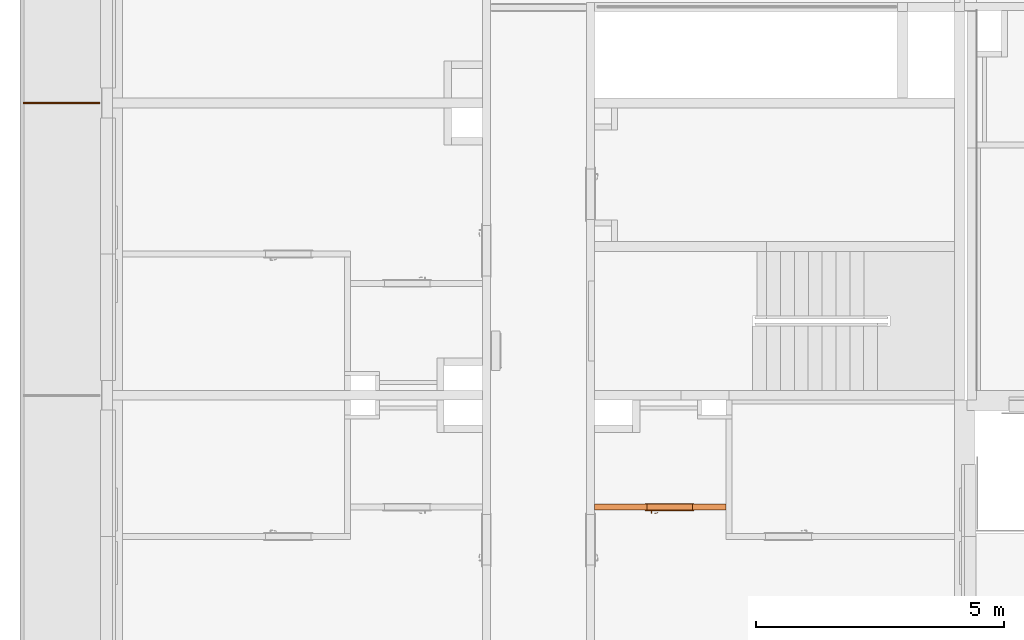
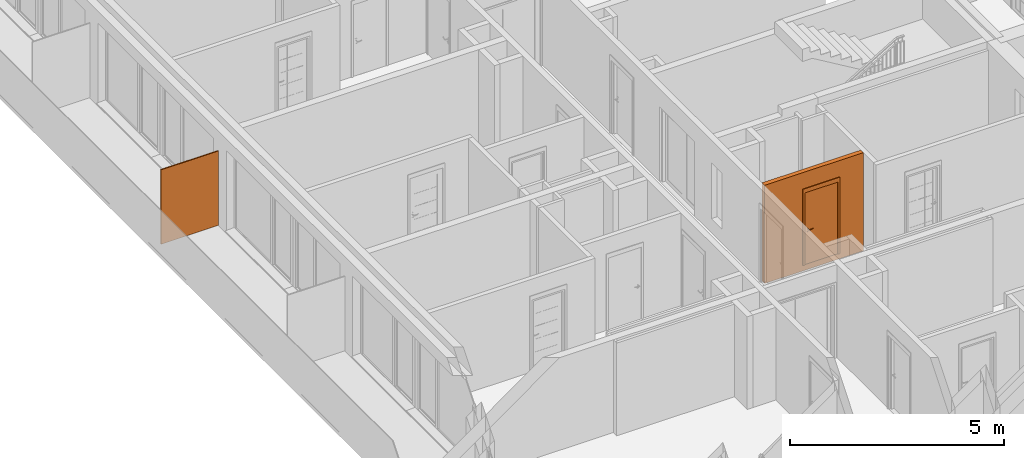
# One storey, part 14 of 66: 3 proxies, 1 opening.
"""IFC2X3 building model written with IfcOpenShell, lengths in millimetres."""

from ifc_helpers import new_model, entity, si_unit, converted_unit, derived_unit, money_unit, direction, frame, origin_with_axes, origin_2d_with_axis, place, context, subcontext, project, spatial, polyline, rectangle, outline, extrude, open_shell, faceted_brep, surface_model, source, transform, mapped, material, type_object, element, fill, save


model = new_model("IFC2X3")

# Units and contexts
model_context = context("Model", 3, precision=0.01, world=origin_with_axes(), true_north=direction((0.34421633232, 0.938890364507)))
body_context = subcontext(model_context, "Body", "Model", "MODEL_VIEW")
ifc_project = project(units=[si_unit("LENGTHUNIT", "METRE", prefix="MILLI"), si_unit("AREAUNIT", "SQUARE_METRE"), si_unit("VOLUMEUNIT", "CUBIC_METRE"), converted_unit("PLANEANGLEUNIT", "DEGREE", entity("IfcPlaneAngleMeasure", 0.0174532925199), si_unit("PLANEANGLEUNIT", "RADIAN"), dimensions=[0, 0, 0, 0, 0, 0, 0]), si_unit("SOLIDANGLEUNIT", "STERADIAN"), money_unit("USD"), converted_unit("TIMEUNIT", "Year", entity("IfcTimeMeasure", 31556926.0), si_unit("TIMEUNIT", "SECOND"), dimensions=[0, 0, 1, 0, 0, 0, 0]), si_unit("MASSUNIT", "GRAM", prefix="KILO"), si_unit("THERMODYNAMICTEMPERATUREUNIT", "DEGREE_CELSIUS"), si_unit("LUMINOUSINTENSITYUNIT", "LUMEN"), si_unit("ENERGYUNIT", "JOULE", prefix="MEGA"), derived_unit("THERMALCONDUCTANCEUNIT", [(si_unit("POWERUNIT", "WATT"), 1), (si_unit("LENGTHUNIT", "METRE"), -1), (si_unit("THERMODYNAMICTEMPERATUREUNIT", "KELVIN"), -1)]), derived_unit("SPECIFICHEATCAPACITYUNIT", [(si_unit("ENERGYUNIT", "JOULE"), 1), (si_unit("MASSUNIT", "GRAM", prefix="KILO"), -1), (si_unit("THERMODYNAMICTEMPERATUREUNIT", "KELVIN"), -1)]), derived_unit("MASSDENSITYUNIT", [(si_unit("MASSUNIT", "GRAM", prefix="KILO"), 1), (si_unit("VOLUMEUNIT", "CUBIC_METRE"), -1)])], contexts=[model_context])

# Site, building, storey
site_placement = place(None, origin_with_axes())
site = spatial("IfcSite", under=ifc_project, at=site_placement, Name="USTRONIE MORSKIE", CompositionType="ELEMENT")
building_placement = place(site_placement, origin_with_axes())
building = spatial("IfcBuilding", under=site, at=building_placement, Name="Budynek", CompositionType="ELEMENT")
storey_placement = place(building_placement, frame((0.0, 0.0, 10000.0), z_axis=(0.0, 0.0, 1.0), x_axis=(1.0, 0.0, 0.0)))
storey = spatial("IfcBuildingStorey", under=building, at=storey_placement, Name="PIĘTRO 3", CompositionType="ELEMENT", Elevation=10000.0)

# Proxies, opening
ifc_material_1 = material(Name="Bloczki silikatowe")
building_element_proxy_type_1 = type_object("IfcBuildingElementProxyType", Name="Bloczki silikatowe 120", PredefinedType="NOTDEFINED")
proxy_1_placement = place(storey_placement, frame((362417.920919, 724641.179437, -160.0), z_axis=(0.0, 0.0, 1.0), x_axis=(-1.0, 0.0, 0.0)))
proxy_1 = element("IfcBuildingElementProxy", 1, at=proxy_1_placement, inside=storey, type_object=building_element_proxy_type_1, material=ifc_material_1, Name="SW-04", context=body_context, shape_type="Brep", body=[
    faceted_brep([(2720.0, 59.9999999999, 0.0), (2720.0, -59.9999999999, 0.0), (60.0, -59.9999999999, 0.0), (60.0, 59.9999999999, 0.0), (2720.0, 59.9999999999, 2800.0), (2720.0, -59.9999999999, 2800.0), (60.0, -59.9999999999, 2800.0), (60.0, 59.9999999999, 2800.0)], [[[0, 1, 2, 3]], [[1, 0, 4, 5]], [[1, 5, 6, 2]], [[7, 3, 2, 6]], [[4, 0, 3, 7]], [[5, 4, 7, 6]]]),
])
opening_placement = place(proxy_1_placement, frame((1200.0, 1.13686837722e-10, 160.0), z_axis=(0.0, 0.0, 1.0), x_axis=(1.0, 0.0, 0.0)))
opening = element("IfcOpeningElement", 2, at=opening_placement, cuts=proxy_1, Name="Dw.4", context=body_context, shape_type="SweptSolid", body=[
    extrude(rectangle(XDim=920.0, YDim=2070.0, at=origin_2d_with_axis()), frame((0.0, -120.0, 1035.0), z_axis=(0.0, -1.0, 0.0), x_axis=(-1.0, 0.0, 0.0)), (0.0, 0.0, -1.0), 360.0),
    extrude(rectangle(XDim=994.0, YDim=2177.0, at=origin_2d_with_axis()), frame((0.0, -59.9999999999, 1088.5), z_axis=(0.0, -1.0, 0.0), x_axis=(-1.0, 0.0, 0.0)), (0.0, 0.0, 1.0), 120.0),
    extrude(rectangle(XDim=994.0, YDim=2177.0, at=origin_2d_with_axis()), frame((0.0, 60.0000000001, 1088.5), z_axis=(0.0, 1.0, 0.0), x_axis=(-1.0, 0.0, 0.0)), (0.0, 0.0, 1.0), 120.0),
])
building_element_proxy_type_2 = type_object("IfcBuildingElementProxyType", Name="Drzwi 23", PredefinedType="NOTDEFINED")
shared_shape = source(origin_with_axes(), body_context, "Body", "SurfaceModel", [
    faceted_brep([(460.0, -115.0, 0.0), (460.0, -120.0, 0.0), (435.0, -120.0, 0.0), (435.0, -115.0, 0.0), (460.0, -115.0, 2070.0), (460.0, -120.0, 2070.0), (435.0, -120.0, 2045.0), (435.0, -115.0, 2045.0)], [[[0, 1, 2, 3]], [[4, 5, 1, 0]], [[1, 5, 6, 2]], [[3, 2, 6, 7]], [[0, 3, 7, 4]], [[7, 6, 5, 4]]]),
    faceted_brep([(-460.0, -115.0, 2070.0), (-460.0, -120.0, 2070.0), (-435.0, -120.0, 2045.0), (-435.0, -115.0, 2045.0), (-460.0, -115.0, 0.0), (-460.0, -120.0, 0.0), (-435.0, -120.0, 0.0), (-435.0, -115.0, 0.0)], [[[0, 1, 2, 3]], [[4, 5, 1, 0]], [[1, 5, 6, 2]], [[3, 2, 6, 7]], [[0, 3, 7, 4]], [[7, 6, 5, 4]]]),
    faceted_brep([(435.0, -115.0, 2045.0), (435.0, -120.0, 2045.0), (-435.0, -120.0, 2045.0), (-435.0, -115.0, 2045.0), (460.0, -115.0, 2070.0), (460.0, -120.0, 2070.0), (-460.0, -120.0, 2070.0), (-460.0, -115.0, 2070.0)], [[[0, 1, 2, 3]], [[4, 5, 1, 0]], [[1, 5, 6, 2]], [[3, 2, 6, 7]], [[0, 3, 7, 4]], [[7, 6, 5, 4]]]),
    faceted_brep([(497.0, -139.0, 0.0), (447.0, -139.0, 0.0), (447.0, -120.0, 0.0), (497.0, -120.0, 0.0), (497.0, -139.0, 2177.0), (447.0, -139.0, 2057.0), (447.0, -120.0, 2057.0), (497.0, -120.0, 2177.0)], [[[0, 1, 2, 3]], [[0, 4, 5, 1]], [[1, 5, 6, 2]], [[3, 2, 6, 7]], [[4, 0, 3, 7]], [[5, 4, 7, 6]]]),
    faceted_brep([(-497.0, -139.0, 2177.0), (-447.0, -139.0, 2057.0), (-447.0, -120.0, 2057.0), (-497.0, -120.0, 2177.0), (-497.0, -139.0, 0.0), (-447.0, -139.0, 0.0), (-447.0, -120.0, 0.0), (-497.0, -120.0, 0.0)], [[[0, 1, 2, 3]], [[0, 4, 5, 1]], [[1, 5, 6, 2]], [[3, 2, 6, 7]], [[4, 0, 3, 7]], [[5, 4, 7, 6]]]),
    faceted_brep([(497.0, -139.0, 2177.0), (447.0, -139.0, 2057.0), (447.0, -120.0, 2057.0), (497.0, -120.0, 2177.0), (-497.0, -139.0, 2177.0), (-447.0, -139.0, 2057.0), (-447.0, -120.0, 2057.0), (-497.0, -120.0, 2177.0)], [[[0, 1, 2, 3]], [[0, 4, 5, 1]], [[1, 5, 6, 2]], [[3, 2, 6, 7]], [[4, 0, 3, 7]], [[5, 4, 7, 6]]]),
    faceted_brep([(497.0, 19.0, 0.0), (497.0, 0.0, 0.0), (447.0, 0.0, 0.0), (447.0, 19.0, 0.0), (497.0, 19.0, 2177.0), (497.0, 0.0, 2177.0), (447.0, 0.0, 2057.0), (447.0, 19.0, 2057.0)], [[[0, 1, 2, 3]], [[4, 5, 1, 0]], [[1, 5, 6, 2]], [[3, 2, 6, 7]], [[0, 3, 7, 4]], [[7, 6, 5, 4]]]),
    faceted_brep([(-497.0, 19.0, 2177.0), (-497.0, 0.0, 2177.0), (-447.0, 0.0, 2057.0), (-447.0, 19.0, 2057.0), (-497.0, 19.0, 0.0), (-497.0, 0.0, 0.0), (-447.0, 0.0, 0.0), (-447.0, 19.0, 0.0)], [[[0, 1, 2, 3]], [[4, 5, 1, 0]], [[1, 5, 6, 2]], [[3, 2, 6, 7]], [[0, 3, 7, 4]], [[7, 6, 5, 4]]]),
    faceted_brep([(497.0, 19.0, 2177.0), (497.0, 0.0, 2177.0), (447.0, 0.0, 2057.0), (447.0, 19.0, 2057.0), (-497.0, 19.0, 2177.0), (-497.0, 0.0, 2177.0), (-447.0, 0.0, 2057.0), (-447.0, 19.0, 2057.0)], [[[0, 1, 2, 3]], [[4, 5, 1, 0]], [[1, 5, 6, 2]], [[3, 2, 6, 7]], [[0, 3, 7, 4]], [[7, 6, 5, 4]]]),
    faceted_brep([(400.0, -40.0, 0.0), (400.0, -115.0, 0.0), (400.0, -115.0, 2000.0), (400.0, -40.0, 2000.0), (412.0, -40.0, 0.0), (412.0, 0.0, 0.0), (460.0, 0.0, 0.0), (460.0, -115.0, 0.0), (460.0, -115.0, 2000.0), (412.0, -40.0, 2000.0), (460.0, 0.0, 2000.0), (412.0, 0.0, 2000.0)], [[[0, 1, 2, 3]], [[4, 5, 6, 7, 1, 0]], [[1, 7, 8, 2]], [[9, 3, 2, 8, 10, 11]], [[9, 4, 0, 3]], [[11, 5, 4, 9]], [[11, 10, 6, 5]], [[6, 10, 8, 7]]]),
    faceted_brep([(-412.0, -40.0, 2000.0), (-412.0, 0.0, 2000.0), (-460.0, 0.0, 2000.0), (-460.0, -115.0, 2000.0), (-400.0, -115.0, 2000.0), (-400.0, -40.0, 2000.0), (-412.0, -40.0, 0.0), (-412.0, 0.0, 0.0), (-460.0, 0.0, 0.0), (-460.0, -115.0, 0.0), (-400.0, -115.0, 0.0), (-400.0, -40.0, 0.0)], [[[0, 1, 2, 3, 4, 5]], [[0, 6, 7, 1]], [[7, 8, 2, 1]], [[2, 8, 9, 3]], [[3, 9, 10, 4]], [[5, 4, 10, 11]], [[5, 11, 6, 0]], [[6, 11, 10, 9, 8, 7]]]),
    faceted_brep([(412.0, 0.0, 2012.0), (-412.0, 0.0, 2012.0), (-412.0, 0.0, 2000.0), (-460.0, 0.0, 2000.0), (-460.0, 0.0, 2070.0), (460.0, 0.0, 2070.0), (460.0, 0.0, 2000.0), (412.0, 0.0, 2000.0), (412.0, -40.0, 2012.0), (-412.0, -40.0, 2012.0), (-412.0, -40.0, 2000.0), (-400.0, -40.0, 2000.0), (-400.0, -115.0, 2000.0), (-460.0, -115.0, 2000.0), (-460.0, -115.0, 2070.0), (460.0, -115.0, 2070.0), (460.0, -115.0, 2000.0), (412.0, -40.0, 2000.0), (400.0, -115.0, 2000.0), (400.0, -40.0, 2000.0)], [[[0, 1, 2, 3, 4, 5, 6, 7]], [[0, 8, 9, 1]], [[1, 9, 10, 2]], [[10, 11, 12, 13, 3, 2]], [[4, 3, 13, 14]], [[5, 4, 14, 15]], [[6, 5, 15, 16]], [[17, 7, 6, 16, 18, 19]], [[7, 17, 8, 0]], [[10, 9, 8, 17, 19, 11]], [[19, 18, 12, 11]], [[12, 18, 16, 15, 14, 13]]]),
    faceted_brep([(390.5, -40.0, 1060.0), (333.5, -40.0, 1060.0), (333.5, -43.0, 1060.0), (390.5, -43.0, 1060.0), (390.5, -40.0, 870.0), (333.5, -40.0, 870.0), (333.5, -43.0, 870.0), (390.5, -43.0, 870.0)], [[[0, 1, 2, 3]], [[0, 4, 5, 1]], [[1, 5, 6, 2]], [[3, 2, 6, 7]], [[4, 0, 3, 7]], [[5, 4, 7, 6]]]),
    faceted_brep([(362.0, -104.0, 990.0), (367.0, -104.0, 991.339745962), (367.0, -111.0, 991.339745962), (362.0, -111.0, 990.0), (337.0, -104.0, 990.0), (337.0, -104.0, 1010.0), (362.0, -104.0, 1010.0), (367.0, -104.0, 1008.66025404), (370.660254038, -104.0, 1005.0), (372.0, -104.0, 1000.0), (370.660254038, -104.0, 995.0), (370.660254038, -111.0, 995.0), (372.0, -111.0, 1000.0), (370.660254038, -111.0, 1005.0), (367.0, -111.0, 1008.66025404), (362.0, -111.0, 1010.0), (337.0, -111.0, 1010.0), (337.0, -111.0, 990.0)], [[[0, 1, 2, 3]], [[0, 4, 5, 6, 7, 8, 9, 10, 1]], [[1, 10, 11, 2]], [[3, 2, 11, 12, 13, 14, 15, 16, 17]], [[4, 0, 3, 17]], [[5, 4, 17, 16]], [[6, 5, 16, 15]], [[7, 6, 15, 14]], [[8, 7, 14, 13]], [[9, 8, 13, 12]], [[10, 9, 12, 11]]]),
    surface_model("IfcShellBasedSurfaceModel", [(337.0, -104.0, 1010.0), (323.901717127, -104.0, 1009.60730092), (323.596090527, -111.0, 1009.60730092), (337.0, -104.0, 990.0), (323.901717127, -104.0, 990.392699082), (296.890283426, -108.663544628, 1008.82190275), (337.0, -111.0, 1010.0), (337.0, -111.0, 990.0), (297.804837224, -101.716818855, 991.178097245), (297.804837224, -101.716818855, 1008.82190275), (296.890283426, -108.663544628, 991.178097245), (323.596090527, -111.0, 990.392699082), (272.006256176, -97.1678329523, 991.963495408), (272.006256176, -97.1678329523, 1008.03650459), (270.489735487, -104.008415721, 1008.03650459), (270.489735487, -104.008415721, 991.963495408), (246.702316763, -90.3876628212, 992.748893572), (246.702316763, -90.3876628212, 1007.25110643), (244.59537082, -97.0700416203, 1007.25110643), (244.59537082, -97.0700416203, 992.748893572), (238.829442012, -87.5221707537, 993.0), (238.829442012, -87.5221707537, 1007.0), (236.538795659, -94.1376880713, 1007.0), (236.538795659, -94.1376880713, 993.0)], [open_shell([[[0, 1, 2]], [[0, 3, 4, 1]], [[1, 5, 2]], [[0, 2, 6]], [[4, 3, 7]], [[1, 4, 8, 9]], [[1, 9, 5]], [[2, 5, 10, 11]], [[6, 2, 11, 7]], [[4, 7, 11]], [[8, 4, 11]], [[9, 8, 12, 13]], [[9, 14, 5]], [[5, 14, 15, 10]], [[8, 11, 10]], [[12, 8, 10]], [[13, 12, 16, 17]], [[9, 13, 14]], [[14, 18, 19, 15]], [[12, 10, 15]], [[16, 12, 15]], [[17, 16, 20, 21]], [[13, 17, 18]], [[13, 18, 14]], [[18, 22, 23, 19]], [[16, 15, 19]], [[20, 16, 19]], [[21, 20, 23, 22]], [[17, 21, 22]], [[17, 22, 18]], [[20, 19, 23]]])]),
    faceted_brep([(351.607695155, -53.0, 994.0), (350.0, -53.0, 1000.0), (349.0, -43.0, 1000.0), (350.741669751, -43.0, 993.5), (356.0, -53.0, 989.607695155), (362.0, -53.0, 988.0), (368.0, -53.0, 989.607695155), (372.392304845, -53.0, 994.0), (374.0, -53.0, 1000.0), (372.392304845, -53.0, 1006.0), (368.0, -53.0, 1010.39230485), (362.0, -53.0, 1012.0), (356.0, -53.0, 1010.39230485), (351.607695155, -53.0, 1006.0), (350.741669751, -43.0, 1006.5), (355.5, -43.0, 1011.25833025), (362.0, -43.0, 1013.0), (368.5, -43.0, 1011.25833025), (373.258330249, -43.0, 1006.5), (375.0, -43.0, 1000.0), (373.258330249, -43.0, 993.5), (368.5, -43.0, 988.741669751), (362.0, -43.0, 987.0), (355.5, -43.0, 988.741669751)], [[[0, 1, 2, 3]], [[1, 0, 4, 5, 6, 7, 8, 9, 10, 11, 12, 13]], [[1, 13, 14, 2]], [[2, 14, 15, 16, 17, 18, 19, 20, 21, 22, 23, 3]], [[4, 0, 3, 23]], [[5, 4, 23, 22]], [[6, 5, 22, 21]], [[7, 6, 21, 20]], [[8, 7, 20, 19]], [[9, 8, 19, 18]], [[10, 9, 18, 17]], [[11, 10, 17, 16]], [[12, 11, 16, 15]], [[13, 12, 15, 14]]]),
    faceted_brep([(344.679491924, -47.0, 895.0), (342.0, -47.0, 905.0), (340.0, -43.0, 905.0), (342.947441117, -43.0, 894.0), (352.0, -47.0, 887.679491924), (362.0, -47.0, 885.0), (372.0, -47.0, 887.679491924), (379.320508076, -47.0, 895.0), (382.0, -47.0, 905.0), (379.320508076, -47.0, 915.0), (372.0, -47.0, 922.320508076), (362.0, -47.0, 925.0), (352.0, -47.0, 922.320508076), (344.679491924, -47.0, 915.0), (342.947441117, -43.0, 916.0), (351.0, -43.0, 924.052558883), (362.0, -43.0, 927.0), (373.0, -43.0, 924.052558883), (381.052558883, -43.0, 916.0), (384.0, -43.0, 905.0), (381.052558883, -43.0, 894.0), (373.0, -43.0, 885.947441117), (362.0, -43.0, 883.0), (351.0, -43.0, 885.947441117)], [[[0, 1, 2, 3]], [[1, 0, 4, 5, 6, 7, 8, 9, 10, 11, 12, 13]], [[1, 13, 14, 2]], [[2, 14, 15, 16, 17, 18, 19, 20, 21, 22, 23, 3]], [[4, 0, 3, 23]], [[5, 4, 23, 22]], [[6, 5, 22, 21]], [[7, 6, 21, 20]], [[8, 7, 20, 19]], [[9, 8, 19, 18]], [[10, 9, 18, 17]], [[11, 10, 17, 16]], [[12, 11, 16, 15]], [[13, 12, 15, 14]]]),
    faceted_brep([(357.050252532, -49.0, 909.050252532), (355.0, -49.0, 914.0), (354.0, -47.0, 914.0), (356.343145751, -47.0, 908.343145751), (362.0, -49.0, 907.0), (366.949747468, -49.0, 909.050252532), (369.0, -49.0, 914.0), (366.949747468, -49.0, 918.949747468), (362.0, -49.0, 921.0), (357.050252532, -49.0, 918.949747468), (356.343145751, -47.0, 919.656854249), (362.0, -47.0, 922.0), (367.656854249, -47.0, 919.656854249), (370.0, -47.0, 914.0), (367.656854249, -47.0, 908.343145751), (362.0, -47.0, 906.0)], [[[0, 1, 2, 3]], [[1, 0, 4, 5, 6, 7, 8, 9]], [[1, 9, 10, 2]], [[2, 10, 11, 12, 13, 14, 15, 3]], [[4, 0, 3, 15]], [[5, 4, 15, 14]], [[6, 5, 14, 13]], [[7, 6, 13, 12]], [[8, 7, 12, 11]], [[9, 8, 11, 10]]]),
    faceted_brep([(362.0, -53.0, 1010.0), (357.0, -53.0, 1008.66025404), (357.0, -104.0, 1008.66025404), (362.0, -104.0, 1010.0), (367.0, -53.0, 1008.66025404), (370.660254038, -53.0, 1005.0), (372.0, -53.0, 1000.0), (370.660254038, -53.0, 995.0), (367.0, -53.0, 991.339745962), (362.0, -53.0, 990.0), (357.0, -53.0, 991.339745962), (353.339745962, -53.0, 995.0), (352.0, -53.0, 1000.0), (353.339745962, -53.0, 1005.0), (353.339745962, -104.0, 1005.0), (352.0, -104.0, 1000.0), (353.339745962, -104.0, 995.0), (357.0, -104.0, 991.339745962), (362.0, -104.0, 990.0), (367.0, -104.0, 991.339745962), (370.660254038, -104.0, 995.0), (372.0, -104.0, 1000.0), (370.660254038, -104.0, 1005.0), (367.0, -104.0, 1008.66025404)], [[[0, 1, 2, 3]], [[0, 4, 5, 6, 7, 8, 9, 10, 11, 12, 13, 1]], [[1, 13, 14, 2]], [[3, 2, 14, 15, 16, 17, 18, 19, 20, 21, 22, 23]], [[4, 0, 3, 23]], [[5, 4, 23, 22]], [[6, 5, 22, 21]], [[7, 6, 21, 20]], [[8, 7, 20, 19]], [[9, 8, 19, 18]], [[10, 9, 18, 17]], [[11, 10, 17, 16]], [[12, 11, 16, 15]], [[13, 12, 15, 14]]]),
    faceted_brep([(390.5, 0.0, 1060.0), (390.5, 3.0, 1060.0), (333.5, 3.0, 1060.0), (333.5, 0.0, 1060.0), (390.5, 0.0, 870.0), (390.5, 3.0, 870.0), (333.5, 3.0, 870.0), (333.5, 0.0, 870.0)], [[[0, 1, 2, 3]], [[4, 5, 1, 0]], [[1, 5, 6, 2]], [[3, 2, 6, 7]], [[0, 3, 7, 4]], [[7, 6, 5, 4]]]),
    faceted_brep([(362.0, 64.0, 990.0), (362.0, 71.0, 990.0), (367.0, 71.0, 991.339745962), (367.0, 64.0, 991.339745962), (337.0, 64.0, 990.0), (337.0, 71.0, 990.0), (337.0, 71.0, 1010.0), (362.0, 71.0, 1010.0), (367.0, 71.0, 1008.66025404), (370.660254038, 71.0, 1005.0), (372.0, 71.0, 1000.0), (370.660254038, 71.0, 995.0), (370.660254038, 64.0, 995.0), (372.0, 64.0, 1000.0), (370.660254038, 64.0, 1005.0), (367.0, 64.0, 1008.66025404), (362.0, 64.0, 1010.0), (337.0, 64.0, 1010.0)], [[[0, 1, 2, 3]], [[4, 5, 1, 0]], [[1, 5, 6, 7, 8, 9, 10, 11, 2]], [[3, 2, 11, 12]], [[0, 3, 12, 13, 14, 15, 16, 17, 4]], [[17, 6, 5, 4]], [[16, 7, 6, 17]], [[15, 8, 7, 16]], [[14, 9, 8, 15]], [[13, 10, 9, 14]], [[12, 11, 10, 13]]]),
    surface_model("IfcShellBasedSurfaceModel", [(337.0, 64.0, 1010.0), (323.596090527, 71.0, 1009.60730092), (323.901717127, 64.0, 1009.60730092), (337.0, 71.0, 1010.0), (296.890283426, 68.6635446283, 1008.82190275), (323.901717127, 64.0, 990.392699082), (337.0, 64.0, 990.0), (337.0, 71.0, 990.0), (323.596090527, 71.0, 990.392699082), (296.890283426, 68.6635446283, 991.178097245), (297.804837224, 61.716818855, 1008.82190275), (297.804837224, 61.716818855, 991.178097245), (270.489735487, 64.0084157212, 991.963495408), (270.489735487, 64.0084157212, 1008.03650459), (272.006256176, 57.1678329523, 1008.03650459), (272.006256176, 57.1678329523, 991.963495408), (244.59537082, 57.0700416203, 992.748893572), (244.59537082, 57.0700416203, 1007.25110643), (246.702316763, 50.3876628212, 1007.25110643), (246.702316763, 50.3876628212, 992.748893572), (236.538795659, 54.1376880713, 993.0), (236.538795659, 54.1376880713, 1007.0), (238.829442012, 47.5221707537, 1007.0), (238.829442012, 47.5221707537, 993.0)], [open_shell([[[0, 1, 2]], [[0, 3, 1]], [[2, 1, 4]], [[0, 2, 5, 6]], [[3, 7, 8, 1]], [[1, 8, 9, 4]], [[2, 4, 10]], [[2, 10, 11, 5]], [[5, 7, 6]], [[5, 8, 7]], [[11, 9, 8]], [[4, 9, 12, 13]], [[10, 4, 13]], [[10, 14, 15, 11]], [[11, 8, 5]], [[15, 9, 11]], [[15, 12, 9]], [[13, 12, 16, 17]], [[10, 13, 14]], [[14, 18, 19, 15]], [[19, 12, 15]], [[19, 16, 12]], [[17, 16, 20, 21]], [[14, 13, 17]], [[14, 17, 18]], [[18, 22, 23, 19]], [[23, 16, 19]], [[23, 20, 16]], [[22, 21, 20, 23]], [[18, 17, 21]], [[18, 21, 22]]])]),
    faceted_brep([(351.607695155, 13.0, 994.0), (350.741669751, 3.0, 993.5), (349.0, 3.0, 1000.0), (350.0, 13.0, 1000.0), (356.0, 13.0, 989.607695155), (355.5, 3.0, 988.741669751), (362.0, 3.0, 987.0), (368.5, 3.0, 988.741669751), (373.258330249, 3.0, 993.5), (375.0, 3.0, 1000.0), (373.258330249, 3.0, 1006.5), (368.5, 3.0, 1011.25833025), (362.0, 3.0, 1013.0), (355.5, 3.0, 1011.25833025), (350.741669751, 3.0, 1006.5), (351.607695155, 13.0, 1006.0), (356.0, 13.0, 1010.39230485), (362.0, 13.0, 1012.0), (368.0, 13.0, 1010.39230485), (372.392304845, 13.0, 1006.0), (374.0, 13.0, 1000.0), (372.392304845, 13.0, 994.0), (368.0, 13.0, 989.607695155), (362.0, 13.0, 988.0)], [[[0, 1, 2, 3]], [[4, 5, 1, 0]], [[2, 1, 5, 6, 7, 8, 9, 10, 11, 12, 13, 14]], [[3, 2, 14, 15]], [[3, 15, 16, 17, 18, 19, 20, 21, 22, 23, 4, 0]], [[23, 6, 5, 4]], [[22, 7, 6, 23]], [[21, 8, 7, 22]], [[20, 9, 8, 21]], [[19, 10, 9, 20]], [[18, 11, 10, 19]], [[17, 12, 11, 18]], [[16, 13, 12, 17]], [[15, 14, 13, 16]]]),
    faceted_brep([(344.679491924, 7.0, 895.0), (342.947441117, 3.0, 894.0), (340.0, 3.0, 905.0), (342.0, 7.0, 905.0), (352.0, 7.0, 887.679491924), (351.0, 3.0, 885.947441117), (362.0, 3.0, 883.0), (373.0, 3.0, 885.947441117), (381.052558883, 3.0, 894.0), (384.0, 3.0, 905.0), (381.052558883, 3.0, 916.0), (373.0, 3.0, 924.052558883), (362.0, 3.0, 927.0), (351.0, 3.0, 924.052558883), (342.947441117, 3.0, 916.0), (344.679491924, 7.0, 915.0), (352.0, 7.0, 922.320508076), (362.0, 7.0, 925.0), (372.0, 7.0, 922.320508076), (379.320508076, 7.0, 915.0), (382.0, 7.0, 905.0), (379.320508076, 7.0, 895.0), (372.0, 7.0, 887.679491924), (362.0, 7.0, 885.0)], [[[0, 1, 2, 3]], [[4, 5, 1, 0]], [[2, 1, 5, 6, 7, 8, 9, 10, 11, 12, 13, 14]], [[3, 2, 14, 15]], [[3, 15, 16, 17, 18, 19, 20, 21, 22, 23, 4, 0]], [[23, 6, 5, 4]], [[22, 7, 6, 23]], [[21, 8, 7, 22]], [[20, 9, 8, 21]], [[19, 10, 9, 20]], [[18, 11, 10, 19]], [[17, 12, 11, 18]], [[16, 13, 12, 17]], [[15, 14, 13, 16]]]),
    faceted_brep([(357.050252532, 9.0, 909.050252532), (356.343145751, 7.0, 908.343145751), (354.0, 7.0, 914.0), (355.0, 9.0, 914.0), (362.0, 9.0, 907.0), (362.0, 7.0, 906.0), (367.656854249, 7.0, 908.343145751), (370.0, 7.0, 914.0), (367.656854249, 7.0, 919.656854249), (362.0, 7.0, 922.0), (356.343145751, 7.0, 919.656854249), (357.050252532, 9.0, 918.949747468), (362.0, 9.0, 921.0), (366.949747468, 9.0, 918.949747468), (369.0, 9.0, 914.0), (366.949747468, 9.0, 909.050252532)], [[[0, 1, 2, 3]], [[4, 5, 1, 0]], [[2, 1, 5, 6, 7, 8, 9, 10]], [[3, 2, 10, 11]], [[3, 11, 12, 13, 14, 15, 4, 0]], [[15, 6, 5, 4]], [[14, 7, 6, 15]], [[13, 8, 7, 14]], [[12, 9, 8, 13]], [[11, 10, 9, 12]]]),
    faceted_brep([(362.0, 13.0, 1010.0), (362.0, 64.0, 1010.0), (357.0, 64.0, 1008.66025404), (357.0, 13.0, 1008.66025404), (367.0, 13.0, 1008.66025404), (367.0, 64.0, 1008.66025404), (370.660254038, 64.0, 1005.0), (372.0, 64.0, 1000.0), (370.660254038, 64.0, 995.0), (367.0, 64.0, 991.339745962), (362.0, 64.0, 990.0), (357.0, 64.0, 991.339745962), (353.339745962, 64.0, 995.0), (352.0, 64.0, 1000.0), (353.339745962, 64.0, 1005.0), (353.339745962, 13.0, 1005.0), (352.0, 13.0, 1000.0), (353.339745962, 13.0, 995.0), (357.0, 13.0, 991.339745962), (362.0, 13.0, 990.0), (367.0, 13.0, 991.339745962), (370.660254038, 13.0, 995.0), (372.0, 13.0, 1000.0), (370.660254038, 13.0, 1005.0)], [[[0, 1, 2, 3]], [[4, 5, 1, 0]], [[1, 5, 6, 7, 8, 9, 10, 11, 12, 13, 14, 2]], [[3, 2, 14, 15]], [[0, 3, 15, 16, 17, 18, 19, 20, 21, 22, 23, 4]], [[23, 6, 5, 4]], [[22, 7, 6, 23]], [[21, 8, 7, 22]], [[20, 9, 8, 21]], [[19, 10, 9, 20]], [[18, 11, 10, 19]], [[17, 12, 11, 18]], [[16, 13, 12, 17]], [[15, 14, 13, 16]]]),
    faceted_brep([(-412.0, 0.0, 0.0), (412.0, 0.0, 0.0), (412.0, -40.0, 0.0), (-412.0, -40.0, 0.0), (-412.0, 0.0, 2012.0), (412.0, 0.0, 2012.0), (412.0, -40.0, 2012.0), (-412.0, -40.0, 2012.0)], [[[0, 1, 2, 3]], [[0, 4, 5, 1]], [[1, 5, 6, 2]], [[3, 2, 6, 7]], [[4, 0, 3, 7]], [[5, 4, 7, 6]]]),
])
proxy_2_placement = place(opening_placement, frame((-400.0, 0.0, 0.0), z_axis=(0.0, 0.0, 1.0), x_axis=(1.0, 0.0, 0.0)))
proxy_2 = element("IfcBuildingElementProxy", 3, at=proxy_2_placement, inside=storey, type_object=building_element_proxy_type_2, Name="Dw.4", context=body_context, shape_type="MappedRepresentation", body=[
    mapped(shared_shape, transform((400.0, 60.0000000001, 0.0))),
])
fill(opening, proxy_2)

# Proxy
ifc_material_2 = material(Name="Woda")
building_element_proxy_type_3 = type_object("IfcBuildingElementProxyType", Name="Woda 30", PredefinedType="NOTDEFINED")
proxy_3_placement = place(storey_placement, frame((349717.920919, 732801.199036, 20.0), z_axis=(0.0, 0.0, 1.0), x_axis=(-0.999999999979, -6.4085659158e-06, 0.0)))
element("IfcBuildingElementProxy", 4, at=proxy_3_placement, inside=storey, type_object=building_element_proxy_type_3, material=ifc_material_2, Name="Œciana-007", context=body_context, shape_type="SweptSolid", body=[
    extrude(outline(polyline([(0.0, -15.0000000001), (1550.00000003, -15.0000000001), (1550.00000003, 15.0), (0.0, 15.0), (0.0, -15.0000000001)])), origin_with_axes(), (0.0, 0.0, 1.0), 2120.0),
])

save(model, "model.ifc")
